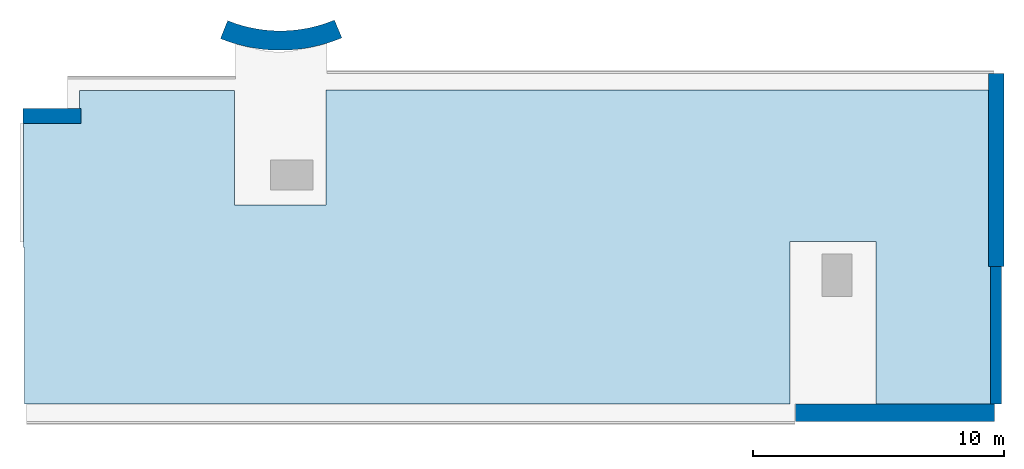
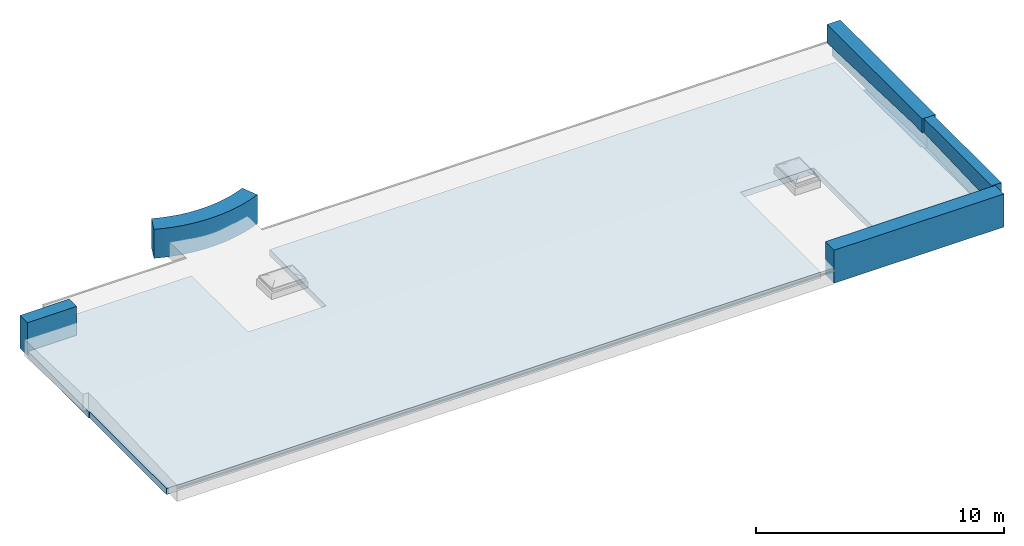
# One storey, part 1 of 4: 5 walls, 1 slab.
"""IFC2X3 building model written with IfcOpenShell, lengths in millimetres."""

from ifc_helpers import new_model, entity, si_unit, converted_unit, derived_unit, direction, frame, frame_2d, origin, place, context, subcontext, project, spatial, polyline, circle_curve, parameter, trimmed, segment, composite_curve, rectangle, outline, extrude, clip, bounded_halfspace, faceted_brep, material, layer, layer_set, layer_usage, type_object, element, save


model = new_model("IFC2X3")

# Units and contexts
model_context = context("Model", 3, precision=0.01, world=origin(), true_north=direction((6.12303176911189e-17, 1.0)))
body_context = subcontext(model_context, "Body", "Model", "MODEL_VIEW")
ifc_project = project(units=[si_unit("LENGTHUNIT", "METRE", prefix="MILLI"), si_unit("AREAUNIT", "SQUARE_METRE"), si_unit("VOLUMEUNIT", "CUBIC_METRE"), converted_unit("PLANEANGLEUNIT", "DEGREE", entity("IfcRatioMeasure", 0.0174532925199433), si_unit("PLANEANGLEUNIT", "RADIAN"), dimensions=[0, 0, 0, 0, 0, 0, 0]), si_unit("MASSUNIT", "GRAM", prefix="KILO"), derived_unit("MASSDENSITYUNIT", [(si_unit("MASSUNIT", "GRAM", prefix="KILO"), 1), (si_unit("LENGTHUNIT", "METRE"), -3)]), si_unit("TIMEUNIT", "SECOND"), si_unit("FREQUENCYUNIT", "HERTZ"), si_unit("THERMODYNAMICTEMPERATUREUNIT", "DEGREE_CELSIUS"), derived_unit("THERMALTRANSMITTANCEUNIT", [(si_unit("MASSUNIT", "GRAM", prefix="KILO"), 1), (si_unit("THERMODYNAMICTEMPERATUREUNIT", "KELVIN"), -1), (si_unit("TIMEUNIT", "SECOND"), -3)]), derived_unit("VOLUMETRICFLOWRATEUNIT", [(si_unit("LENGTHUNIT", "METRE"), 3), (si_unit("TIMEUNIT", "SECOND"), -1)]), si_unit("ELECTRICCURRENTUNIT", "AMPERE"), si_unit("ELECTRICVOLTAGEUNIT", "VOLT"), si_unit("POWERUNIT", "WATT"), si_unit("FORCEUNIT", "NEWTON", prefix="KILO"), si_unit("ILLUMINANCEUNIT", "LUX"), si_unit("LUMINOUSFLUXUNIT", "LUMEN"), si_unit("LUMINOUSINTENSITYUNIT", "CANDELA"), derived_unit("USERDEFINED", [(si_unit("MASSUNIT", "GRAM", prefix="KILO"), -1), (si_unit("LENGTHUNIT", "METRE"), -2), (si_unit("TIMEUNIT", "SECOND"), 3), (si_unit("LUMINOUSFLUXUNIT", "LUMEN"), 1)]), derived_unit("LINEARVELOCITYUNIT", [(si_unit("LENGTHUNIT", "METRE"), 1), (si_unit("TIMEUNIT", "SECOND"), -1)]), si_unit("PRESSUREUNIT", "PASCAL"), derived_unit("USERDEFINED", [(si_unit("LENGTHUNIT", "METRE"), -2), (si_unit("MASSUNIT", "GRAM", prefix="KILO"), 1), (si_unit("TIMEUNIT", "SECOND"), -2)]), derived_unit("LINEARFORCEUNIT", [(si_unit("MASSUNIT", "GRAM", prefix="KILO"), 1), (si_unit("LENGTHUNIT", "METRE"), 1), (si_unit("TIMEUNIT", "SECOND"), -2), (si_unit("LENGTHUNIT", "METRE"), -1)]), derived_unit("PLANARFORCEUNIT", [(si_unit("MASSUNIT", "GRAM", prefix="KILO"), 1), (si_unit("LENGTHUNIT", "METRE"), 1), (si_unit("TIMEUNIT", "SECOND"), -2), (si_unit("LENGTHUNIT", "METRE"), -2)])], contexts=[model_context])

# Site, building, storey
site_placement = place(None, origin())
site = spatial("IfcSite", under=ifc_project, at=site_placement, Name="Default", CompositionType="ELEMENT")
building_placement = place(site_placement, origin())
building = spatial("IfcBuilding", under=site, at=building_placement, Name="SMA ARH", CompositionType="ELEMENT")
storey_placement = place(building_placement, frame((0.0, 0.0, 13000.0)))
storey = spatial("IfcBuildingStorey", under=building, at=storey_placement, Name="Katus", CompositionType="ELEMENT", Elevation=12999.9999999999)

# Slab
ifc_material_1 = material(Name="EST. Betoon. Armeeritud. Monteeritav(1)")
ifc_layer_1 = layer(ifc_material_1, 300.0)
ifc_layer_set_1 = layer_set([ifc_layer_1], Name="Floor:Generic 200mm")
ifc_layer_usage_1 = layer_usage(ifc_layer_set_1, "AXIS3", "POSITIVE", 0.0)
slab_type = type_object("IfcSlabType", Name="Floor:Generic 200mm", PredefinedType="FLOOR", material=ifc_layer_set_1)
slab_placement = place(storey_placement, origin())
element("IfcSlab", 1, at=slab_placement, inside=storey, type_object=slab_type, material=ifc_layer_usage_1, Name="Floor:Generic 200mm", ObjectType="Floor:Generic 200mm", PredefinedType="FLOOR", context=body_context, shape_type="SweptSolid", body=[
    extrude(outline(polyline([(-706.792199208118, -18231.0758134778), (4238.20780079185, -18231.0758134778), (4238.20780079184, -16006.0752861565), (5544.41084369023, -16006.0752861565), (5544.41084369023, -9841.07528615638), (988.207800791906, -9841.07528615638), (988.207800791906, -6191.0752861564), (5568.2078007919, -6191.0752861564), (5568.2078007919, 20193.9247138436), (-1316.8654492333, 20193.9247138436), (-1316.8654492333, 20268.8257129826), (-6931.79219920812, 20268.8257129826), (-6931.79219920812, 15713.9247138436), (-451.792199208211, 15713.9247138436), (-451.792199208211, 12298.9247138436), (-6931.79219920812, 12298.9247138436), (-6931.79219920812, -18206.2981825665), (-706.792199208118, -18206.2981825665), (-706.792199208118, -18231.0758134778)])), frame((18151.0752861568, 6931.79219920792, 211.050000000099), z_axis=(0.0, 0.0, -1.0), x_axis=(0.0, 1.0, 0.0)), (0.0, 0.0, 1.0), 300.000000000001),
])

# Walls
ifc_material_2 = material(Name="_ol.olev sein")
ifc_layer_2 = layer(ifc_material_2, 700.0)
ifc_layer_set_2 = layer_set([ifc_layer_2], Name="Basic Wall:Generic - 700mm")
ifc_layer_usage_2 = layer_usage(ifc_layer_set_2, "AXIS2", "NEGATIVE", 350.0)
wall_type_1 = type_object("IfcWallType", Name="Basic Wall:Generic - 700mm", PredefinedType="STANDARD", material=ifc_layer_set_2)
wall_1_placement = place(storey_placement, frame((38590.5990008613, -350.0, 0.0), z_axis=(0.0, 0.0, 1.0), x_axis=(-1.0, 0.0, 0.0)))
element("IfcWallStandardCase", 2, at=wall_1_placement, inside=storey, type_object=wall_type_1, material=ifc_layer_usage_2, Name="Basic Wall:Generic - 700mm", ObjectType="Basic Wall:Generic - 700mm", context=body_context, shape_type="SweptSolid", body=[
    extrude(rectangle(XDim=7926.94085160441, YDim=700.0, at=frame_2d((3963.4704258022, 0.0), x_axis=(-1.0, 0.0))), origin(), (0.0, 0.0, 1.0), 1630.0),
])
ifc_layer_3 = layer(ifc_material_2, 600.0)
ifc_layer_set_3 = layer_set([ifc_layer_3], Name="Basic Wall:Generic - 600mm")
ifc_layer_usage_3 = layer_usage(ifc_layer_set_3, "AXIS2", "NEGATIVE", 300.0)
wall_type_2 = type_object("IfcWallType", Name="Basic Wall:Generic - 600mm", PredefinedType="STANDARD", material=ifc_layer_set_3)
wall_2_placement = place(storey_placement, frame((-100.0, 11470.0, 0.0)))
element("IfcWallStandardCase", 3, at=wall_2_placement, inside=storey, type_object=wall_type_2, material=ifc_layer_usage_3, Name="Basic Wall:Generic - 600mm", ObjectType="Basic Wall:Generic - 600mm", context=body_context, shape_type="SweptSolid", body=[
    extrude(rectangle(XDim=2300.00000000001, YDim=600.000000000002, at=frame_2d((1150.0, -1.13686837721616e-13), x_axis=(-1.0, 0.0))), origin(), (0.0, 0.0, 1.0), 1630.0),
])
ifc_layer_4 = layer(ifc_material_2, 770.0)
ifc_layer_set_4 = layer_set([ifc_layer_4], Name="Basic Wall:Generic - 770mm")
ifc_layer_usage_4 = layer_usage(ifc_layer_set_4, "AXIS2", "POSITIVE", -385.0)
wall_type_3 = type_object("IfcWallType", Name="Basic Wall:Generic - 770mm", PredefinedType="STANDARD", material=ifc_layer_set_4)
wall_3_placement = place(storey_placement, frame((12444.4838887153, 14938.9611288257, 0.0)))
element("IfcWallStandardCase", 4, at=wall_3_placement, inside=storey, type_object=wall_type_3, material=ifc_layer_usage_4, Name="Basic Wall:Generic - 770mm", ObjectType="Basic Wall:Generic - 770mm", context=body_context, shape_type="SweptSolid", body=[
    extrude(outline(composite_curve([segment(trimmed(circle_curve(frame_2d((-2304.48388871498, 5491.1777600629), x_axis=(1.0, 0.0)), 6340.13888888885), [parameter(247.920826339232)], [parameter(292.766343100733)], True, "PARAMETER"), True, "CONTINUOUS"), segment(polyline([(148.984988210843, -355.004891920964), (-148.984988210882, 355.004891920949)]), True, "CONTINUOUS"), segment(trimmed(circle_curve(frame_2d((-2304.48388871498, 5491.1777600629), x_axis=(1.0, 0.0)), 5570.13888888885), [parameter(247.920826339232)], [parameter(292.766343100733)], True, "PARAMETER"), False, "CONTINUOUS"), segment(polyline([(-4398.22922565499, 329.523208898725), (-4687.66256683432, -384.009089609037)]), True, "CONTINUOUS")], self_intersect=False)), origin(), (0.0, 0.0, 1.0), 1430.0),
])
ifc_layer_5 = layer(ifc_material_2, 450.0)
ifc_layer_set_5 = layer_set([ifc_layer_5], Name="Basic Wall:Generic - 450mm")
ifc_layer_usage_5 = layer_usage(ifc_layer_set_5, "AXIS2", "NEGATIVE", 225.0)
wall_type_4 = type_object("IfcWallType", Name="Basic Wall:Generic - 450mm", PredefinedType="STANDARD", material=ifc_layer_set_5)
wall_4_placement = place(storey_placement, frame((38644.9009991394, 5480.0, -50.381281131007), z_axis=(0.0, 0.0, 1.0), x_axis=(0.0, -1.0, 0.0)))
element("IfcWallStandardCase", 5, at=wall_4_placement, inside=storey, type_object=wall_type_4, material=ifc_layer_usage_5, Name="Basic Wall:Generic - 450mm", ObjectType="Basic Wall:Generic - 450mm", context=body_context, shape_type="Clipping", body=[
    clip(clip(clip(extrude(rectangle(XDim=5480.00000000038, YDim=450.000000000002, at=frame_2d((2740.00000000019, -2.8421709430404e-13), x_axis=(-1.0, 0.0))), origin(), (0.0, 0.0, 1.0), 1720.38128113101), bounded_halfspace(frame((0.0, -55.0, 50.381281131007), z_axis=(0.0, -1.0, 0.0), x_axis=(1.0, 0.0, 0.0)), True, frame((0.0, -55.0, 50.381281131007), z_axis=(0.0, -1.0, 0.0), x_axis=(1.0, 0.0, 0.0)), polyline([(0.0, 0.0), (0.0, -50.381281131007), (5480.0, -50.381281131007), (5480.0, 0.0), (0.0, 0.0)]))), bounded_halfspace(frame((5480.0, -55.0, 50.381281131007), z_axis=(0.0, 0.0, 1.0), x_axis=(0.0, 1.0, 0.0)), True, frame((5480.0, -55.0, 50.381281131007), z_axis=(0.0, 0.0, 1.0), x_axis=(0.0, 1.0, 0.0)), polyline([(0.0, 0.0), (0.698001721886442, 0.0), (280.0, 0.0), (280.0, 5480.0), (0.0, 5480.0), (0.0, 0.0)]))), bounded_halfspace(frame((0.0, -71.6581492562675, 226.191636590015), z_axis=(0.0, 1.0, 0.0), x_axis=(-1.0, 0.0, 0.0)), True, frame((0.0, -71.6581492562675, 226.191636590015), z_axis=(0.0, 1.0, 0.0), x_axis=(-1.0, 0.0, 0.0)), polyline([(0.0, 0.0), (0.0, 800.487635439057), (-5480.0, 609.121818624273), (-5480.0, -191.365816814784), (0.0, 0.0)]))),
])
ifc_layer_6 = layer(ifc_material_2, 620.0)
ifc_layer_set_6 = layer_set([ifc_layer_6], Name="Basic Wall:Generic - 620mm")
wall_type_5 = type_object("IfcWallType", Name="Basic Wall:Generic - 620mm", PredefinedType="STANDARD", material=ifc_layer_set_6)
wall_5_placement = place(storey_placement, frame((38655.0, 5480.0, 55.0), z_axis=(0.0, 0.0, 1.0), x_axis=(0.0, 1.0, 0.0)))
element("IfcWall", 6, at=wall_5_placement, inside=storey, type_object=wall_type_5, material=ifc_material_2, Name="Basic Wall:Generic - 620mm", ObjectType="Basic Wall:Generic - 620mm", context=body_context, shape_type="Brep", body=[
    faceted_brep([(0.0, -310.0, 0.0), (785.0, -310.0, 0.0), (7020.0, -310.0, 0.0), (7685.0, -310.0, 0.0), (7685.0, -310.0, 1615.0), (0.0, -310.0, 1615.0), (0.0, 310.0, 0.0), (0.0, 310.0, 120.810355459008), (134.92674997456, 310.0, 125.52210139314), (752.499999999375, 310.0, 147.088234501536), (4964.55593812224, 310.0, 0.0), (4964.55593812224, 81.7571501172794, 0.0), (7685.0, 81.7571501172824, 0.0), (7685.0, 81.7571501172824, 705.487635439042), (7685.0, 310.0, 705.487635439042), (7685.0, 310.0, 1615.0), (0.0, 310.0, 1615.0), (0.0, 235.099000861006, 1615.0), (0.0, -214.900999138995, 1615.0), (0.0, 310.0, 921.297990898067), (0.0, 235.099000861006, 921.297990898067), (0.0, 81.7571501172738, 921.297990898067), (0.0, 81.7571501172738, 120.810355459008), (0.0, 235.099000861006, 120.810355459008), (752.499999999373, 81.7571501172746, 147.088234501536), (752.499999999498, 81.7571501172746, 947.575869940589), (752.4999999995, 310.0, 947.575869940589)], [[[0, 1, 2, 3, 4, 5]], [[6, 7, 8, 9, 10]], [[3, 2, 1, 0, 6, 10, 11, 12]], [[4, 3, 12, 13, 14, 15]], [[5, 4, 15, 16, 17, 18]], [[0, 5, 18, 17, 16, 19, 20, 21, 22, 23, 7, 6]], [[9, 24, 11, 10]], [[24, 9, 8, 7, 23, 22]], [[13, 25, 26, 14]], [[26, 25, 21, 20, 19]], [[25, 13, 12, 11, 24, 22, 21]], [[16, 15, 14, 26, 19]]]),
])

save(model, "model.ifc")
